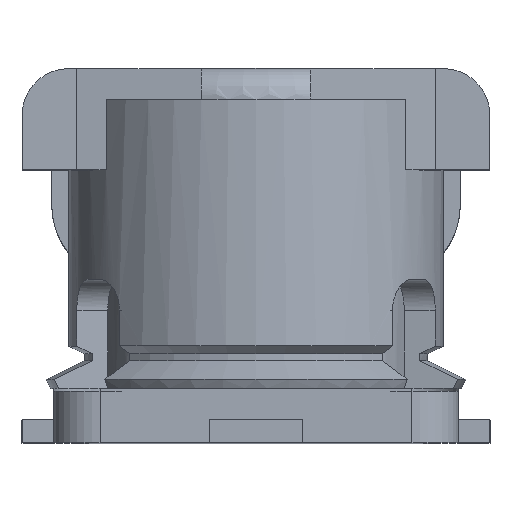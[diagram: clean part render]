
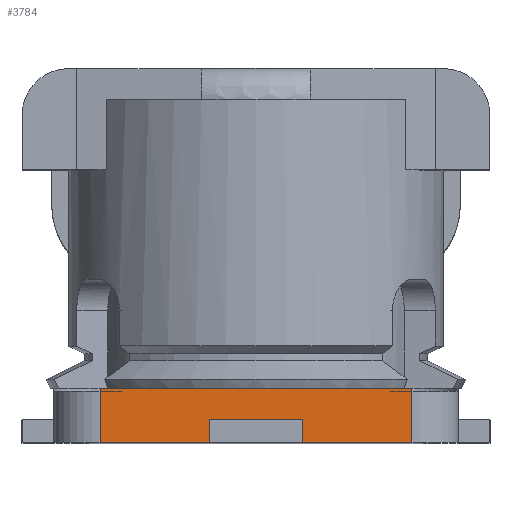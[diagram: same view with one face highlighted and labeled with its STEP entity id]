
A CAD part, top view. The second image highlights one B-rep face of the part: STEP entity #3784.
In plain terms, the highlighted planar face has unit normal (0, 0, 1).
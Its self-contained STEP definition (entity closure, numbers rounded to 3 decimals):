
#33 = VECTOR ( 'NONE', #11007, 1000. ) ;
#78 = ORIENTED_EDGE ( 'NONE', *, *, #4517, .T. ) ;
#154 = EDGE_CURVE ( 'NONE', #12794, #11295, #9183, .T. ) ;
#214 = VERTEX_POINT ( 'NONE', #5429 ) ;
#281 = VECTOR ( 'NONE', #4171, 1000. ) ;
#408 = ORIENTED_EDGE ( 'NONE', *, *, #13817, .F. ) ;
#891 = DIRECTION ( 'NONE',  ( 0., 1., 0. ) ) ;
#966 = DIRECTION ( 'NONE',  ( 1., 0., 0. ) ) ;
#972 = LINE ( 'NONE', #1977, #281 ) ;
#976 = CARTESIAN_POINT ( 'NONE',  ( -1.5, 0.35, 1.3 ) ) ;
#998 = LINE ( 'NONE', #13059, #1696 ) ;
#1167 = VERTEX_POINT ( 'NONE', #6050 ) ;
#1284 = LINE ( 'NONE', #10105, #11794 ) ;
#1305 = DIRECTION ( 'NONE',  ( 0., -1., 0. ) ) ;
#1696 = VECTOR ( 'NONE', #966, 1000. ) ;
#1924 = CARTESIAN_POINT ( 'NONE',  ( -1., 0.33, 1.3 ) ) ;
#1977 = CARTESIAN_POINT ( 'NONE',  ( 1., 0.35, 1.3 ) ) ;
#2035 = CARTESIAN_POINT ( 'NONE',  ( 0.3, 0., 1.3 ) ) ;
#2127 = EDGE_CURVE ( 'NONE', #12794, #12177, #13215, .T. ) ;
#2226 = VERTEX_POINT ( 'NONE', #8896 ) ;
#2270 = ORIENTED_EDGE ( 'NONE', *, *, #2127, .F. ) ;
#2569 = ORIENTED_EDGE ( 'NONE', *, *, #10323, .F. ) ;
#2576 = VERTEX_POINT ( 'NONE', #10642 ) ;
#2971 = DIRECTION ( 'NONE',  ( 1., 0., 0. ) ) ;
#3081 = DIRECTION ( 'NONE',  ( 0., -1., 0. ) ) ;
#3082 = CARTESIAN_POINT ( 'NONE',  ( 0.3, 0.15, 1.3 ) ) ;
#3088 = EDGE_CURVE ( 'NONE', #12269, #12177, #8677, .T. ) ;
#3093 = CARTESIAN_POINT ( 'NONE',  ( 0.21, 0.35, 1.3 ) ) ;
#3097 = CARTESIAN_POINT ( 'NONE',  ( -1., 0.35, 1.3 ) ) ;
#3188 = DIRECTION ( 'NONE',  ( 0., 0., -1. ) ) ;
#3237 = ORIENTED_EDGE ( 'NONE', *, *, #10480, .T. ) ;
#3348 = DIRECTION ( 'NONE',  ( -1., 0., 0. ) ) ;
#3429 = CARTESIAN_POINT ( 'NONE',  ( -1., 0.35, 1.3 ) ) ;
#3676 = CARTESIAN_POINT ( 'NONE',  ( -0.3, 0.15, 1.3 ) ) ;
#3746 = DIRECTION ( 'NONE',  ( 1., 0., 0. ) ) ;
#3784 = ADVANCED_FACE ( 'NONE', ( #10147 ), #7543, .F. ) ;
#4071 = EDGE_CURVE ( 'NONE', #13818, #9925, #998, .T. ) ;
#4126 = DIRECTION ( 'NONE',  ( -1., 0., 0. ) ) ;
#4171 = DIRECTION ( 'NONE',  ( 0., -1., 0. ) ) ;
#4513 = CARTESIAN_POINT ( 'NONE',  ( 1., 0., 1.3 ) ) ;
#4517 = EDGE_CURVE ( 'NONE', #13818, #10851, #8146, .T. ) ;
#5093 = VECTOR ( 'NONE', #891, 1000. ) ;
#5121 = ORIENTED_EDGE ( 'NONE', *, *, #4071, .F. ) ;
#5179 = LINE ( 'NONE', #9449, #7315 ) ;
#5244 = ORIENTED_EDGE ( 'NONE', *, *, #9806, .T. ) ;
#5429 = CARTESIAN_POINT ( 'NONE',  ( -1., 0., 1.3 ) ) ;
#5697 = ORIENTED_EDGE ( 'NONE', *, *, #10071, .T. ) ;
#5921 = DIRECTION ( 'NONE',  ( 0., -1., 0. ) ) ;
#6050 = CARTESIAN_POINT ( 'NONE',  ( 1., 0.33, 1.3 ) ) ;
#6172 = CARTESIAN_POINT ( 'NONE',  ( 1., 0.35, 1.3 ) ) ;
#6240 = VECTOR ( 'NONE', #3746, 1000. ) ;
#6265 = EDGE_CURVE ( 'NONE', #9925, #1167, #1284, .T. ) ;
#6461 = LINE ( 'NONE', #3429, #8986 ) ;
#6851 = VERTEX_POINT ( 'NONE', #1924 ) ;
#7093 = CARTESIAN_POINT ( 'NONE',  ( -0.3, 0., 1.3 ) ) ;
#7315 = VECTOR ( 'NONE', #2971, 1000. ) ;
#7543 = PLANE ( 'NONE',  #13042 ) ;
#7849 = CARTESIAN_POINT ( 'NONE',  ( 0.3, 0.15, 1.3 ) ) ;
#8146 = LINE ( 'NONE', #976, #10655 ) ;
#8311 = CARTESIAN_POINT ( 'NONE',  ( 0., 0.15, 1.3 ) ) ;
#8434 = DIRECTION ( 'NONE',  ( -1., 0., 0. ) ) ;
#8677 = LINE ( 'NONE', #3676, #5093 ) ;
#8826 = VECTOR ( 'NONE', #3081, 1000. ) ;
#8837 = VECTOR ( 'NONE', #9278, 1000. ) ;
#8896 = CARTESIAN_POINT ( 'NONE',  ( -1., 0.35, 1.3 ) ) ;
#8986 = VECTOR ( 'NONE', #1305, 1000. ) ;
#9023 = LINE ( 'NONE', #4513, #33 ) ;
#9123 = CARTESIAN_POINT ( 'NONE',  ( 1., 0., 1.3 ) ) ;
#9183 = LINE ( 'NONE', #7849, #8837 ) ;
#9278 = DIRECTION ( 'NONE',  ( 0., -1., 0. ) ) ;
#9449 = CARTESIAN_POINT ( 'NONE',  ( 1., 0.35, 1.3 ) ) ;
#9806 = EDGE_CURVE ( 'NONE', #2226, #6851, #12032, .T. ) ;
#9925 = VERTEX_POINT ( 'NONE', #6172 ) ;
#10071 = EDGE_CURVE ( 'NONE', #6851, #214, #6461, .T. ) ;
#10105 = CARTESIAN_POINT ( 'NONE',  ( 1., 0.35, 1.3 ) ) ;
#10134 = CARTESIAN_POINT ( 'NONE',  ( -0.3, 0.15, 1.3 ) ) ;
#10147 = FACE_OUTER_BOUND ( 'NONE', #12263, .T. ) ;
#10182 = ORIENTED_EDGE ( 'NONE', *, *, #14033, .T. ) ;
#10316 = VECTOR ( 'NONE', #8434, 1000. ) ;
#10323 = EDGE_CURVE ( 'NONE', #2226, #10851, #5179, .T. ) ;
#10480 = EDGE_CURVE ( 'NONE', #11295, #2576, #9023, .T. ) ;
#10642 = CARTESIAN_POINT ( 'NONE',  ( 1., 0., 1.3 ) ) ;
#10655 = VECTOR ( 'NONE', #3348, 1000. ) ;
#10804 = CARTESIAN_POINT ( 'NONE',  ( 1., 0.35, 1.3 ) ) ;
#10851 = VERTEX_POINT ( 'NONE', #13944 ) ;
#11007 = DIRECTION ( 'NONE',  ( 1., 0., 0. ) ) ;
#11295 = VERTEX_POINT ( 'NONE', #2035 ) ;
#11371 = ORIENTED_EDGE ( 'NONE', *, *, #154, .T. ) ;
#11794 = VECTOR ( 'NONE', #5921, 1000. ) ;
#11983 = LINE ( 'NONE', #9123, #6240 ) ;
#12032 = LINE ( 'NONE', #3097, #8826 ) ;
#12177 = VERTEX_POINT ( 'NONE', #10134 ) ;
#12263 = EDGE_LOOP ( 'NONE', ( #14035, #2270, #11371, #3237, #408, #12841, #5121, #78, #2569, #5244, #5697, #10182 ) ) ;
#12269 = VERTEX_POINT ( 'NONE', #7093 ) ;
#12794 = VERTEX_POINT ( 'NONE', #3082 ) ;
#12841 = ORIENTED_EDGE ( 'NONE', *, *, #6265, .F. ) ;
#13042 = AXIS2_PLACEMENT_3D ( 'NONE', #10804, #3188, #4126 ) ;
#13059 = CARTESIAN_POINT ( 'NONE',  ( 1., 0.35, 1.3 ) ) ;
#13215 = LINE ( 'NONE', #8311, #10316 ) ;
#13817 = EDGE_CURVE ( 'NONE', #1167, #2576, #972, .T. ) ;
#13818 = VERTEX_POINT ( 'NONE', #3093 ) ;
#13944 = CARTESIAN_POINT ( 'NONE',  ( -0.21, 0.35, 1.3 ) ) ;
#14033 = EDGE_CURVE ( 'NONE', #214, #12269, #11983, .T. ) ;
#14035 = ORIENTED_EDGE ( 'NONE', *, *, #3088, .T. ) ;
